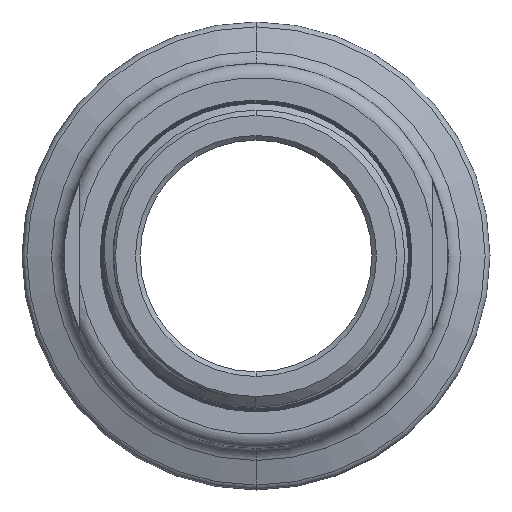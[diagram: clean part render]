
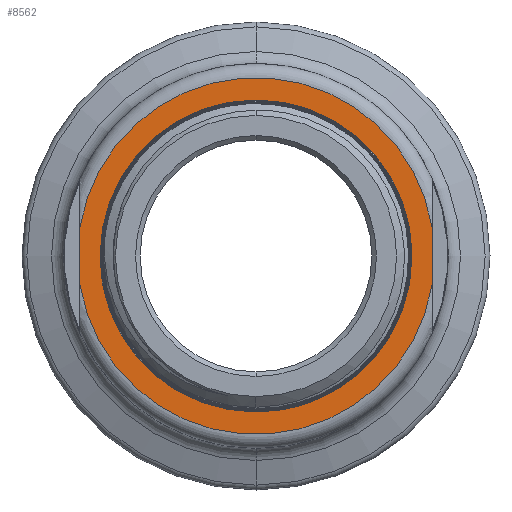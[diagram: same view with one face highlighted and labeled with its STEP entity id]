
A CAD part, front view. The second image highlights one B-rep face of the part: STEP entity #8562.
In plain terms, the highlighted planar face has unit normal (0, -1, 0).
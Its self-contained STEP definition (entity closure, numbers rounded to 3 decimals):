
#13=DIRECTION('',(0.,0.,-1.));
#14=VECTOR('',#13,6.185);
#15=CARTESIAN_POINT('',(-19.,-20.,3.092));
#16=LINE('',#15,#14);
#17=DIRECTION('',(0.,0.,-1.));
#18=VECTOR('',#17,6.185);
#19=CARTESIAN_POINT('',(19.,-20.,3.092));
#20=LINE('',#19,#18);
#1266=CARTESIAN_POINT('',(0.,-20.,0.));
#1267=DIRECTION('',(0.,1.,0.));
#1268=DIRECTION('',(0.,0.,1.));
#1269=AXIS2_PLACEMENT_3D('',#1266,#1267,#1268);
#2086=CARTESIAN_POINT('',(0.,-20.,0.));
#2087=DIRECTION('',(0.,-1.,0.));
#2088=DIRECTION('',(0.,0.,1.));
#2089=AXIS2_PLACEMENT_3D('',#2086,#2087,#2088);
#6981=CARTESIAN_POINT('',(0.,-20.,0.));
#6982=DIRECTION('',(0.,-1.,0.));
#6983=DIRECTION('',(0.987,0.,0.161));
#6984=AXIS2_PLACEMENT_3D('',#6981,#6982,#6983);
#7011=CARTESIAN_POINT('',(-19.,-20.,-3.092));
#7021=CARTESIAN_POINT('',(-19.,-20.,3.092));
#7048=CARTESIAN_POINT('',(0.,-20.,0.));
#7049=DIRECTION('',(0.,-1.,0.));
#7050=DIRECTION('',(-0.987,0.,-0.161));
#7051=AXIS2_PLACEMENT_3D('',#7048,#7049,#7050);
#7053=CARTESIAN_POINT('',(19.,-20.,-3.092));
#7105=CARTESIAN_POINT('',(19.,-20.,3.092));
#7966=CARTESIAN_POINT('',(0.,-20.,16.825));
#7967=CARTESIAN_POINT('',(0.,-20.,-16.825));
#7968=VERTEX_POINT('',#7966);
#7969=VERTEX_POINT('',#7967);
#7986=VERTEX_POINT('',#7053);
#7991=VERTEX_POINT('',#7011);
#7992=VERTEX_POINT('',#7021);
#7997=VERTEX_POINT('',#7105);
#8541=CARTESIAN_POINT('',(0.,-20.,0.));
#8542=DIRECTION('',(0.,1.,0.));
#8543=DIRECTION('',(0.,0.,-1.));
#8544=AXIS2_PLACEMENT_3D('',#8541,#8542,#8543);
#8545=PLANE('',#8544);
#8547=ORIENTED_EDGE('',*,*,#8546,.F.);
#8549=ORIENTED_EDGE('',*,*,#8548,.F.);
#8551=ORIENTED_EDGE('',*,*,#8550,.F.);
#8553=ORIENTED_EDGE('',*,*,#8552,.T.);
#8554=EDGE_LOOP('',(#8547,#8549,#8551,#8553));
#8555=FACE_OUTER_BOUND('',#8554,.F.);
#8557=ORIENTED_EDGE('',*,*,#8556,.F.);
#8559=ORIENTED_EDGE('',*,*,#8558,.T.);
#8560=EDGE_LOOP('',(#8557,#8559));
#8561=FACE_BOUND('',#8560,.F.);
#8562=ADVANCED_FACE('',(#8555,#8561),#8545,.F.);
#1270=CIRCLE('',#1269,16.825);
#2090=CIRCLE('',#2089,16.825);
#6985=CIRCLE('',#6984,19.25);
#7052=CIRCLE('',#7051,19.25);
#8546=EDGE_CURVE('',#7991,#7986,#7052,.T.);
#8548=EDGE_CURVE('',#7992,#7991,#16,.T.);
#8550=EDGE_CURVE('',#7997,#7992,#6985,.T.);
#8552=EDGE_CURVE('',#7997,#7986,#20,.T.);
#8556=EDGE_CURVE('',#7968,#7969,#1270,.T.);
#8558=EDGE_CURVE('',#7968,#7969,#2090,.T.);
